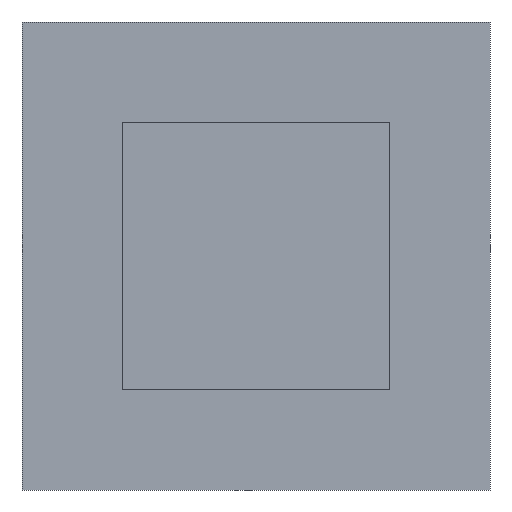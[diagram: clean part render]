
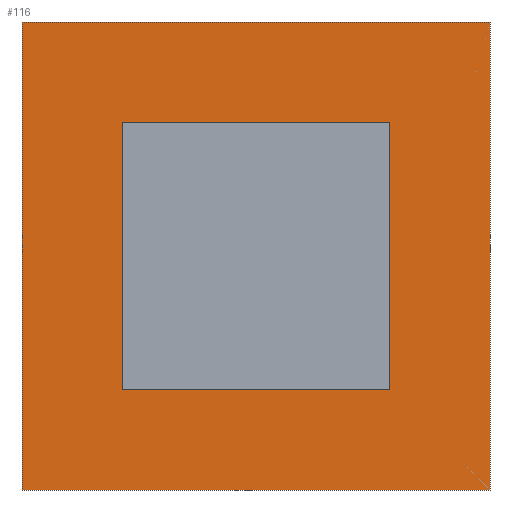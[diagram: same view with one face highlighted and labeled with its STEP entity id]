
A CAD part, front view. The second image highlights one B-rep face of the part: STEP entity #116.
In plain terms, the highlighted planar face has unit normal (0, -1, 0).
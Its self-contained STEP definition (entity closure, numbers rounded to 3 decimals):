
#114 = VERTEX_POINT( '', #310 );
#116 = ADVANCED_FACE( '', ( #312, #313 ), #314, .F. );
#126 = EDGE_CURVE( '', #114, #168, #327, .T. );
#134 = VERTEX_POINT( '', #336 );
#144 = VERTEX_POINT( '', #347 );
#150 = EDGE_CURVE( '', #144, #114, #353, .T. );
#168 = VERTEX_POINT( '', #373 );
#176 = VERTEX_POINT( '', #381 );
#182 = EDGE_CURVE( '', #168, #254, #387, .T. );
#190 = EDGE_CURVE( '', #176, #206, #396, .T. );
#192 = EDGE_CURVE( '', #254, #144, #398, .T. );
#206 = VERTEX_POINT( '', #413 );
#210 = VERTEX_POINT( '', #417 );
#248 = EDGE_CURVE( '', #134, #176, #461, .T. );
#254 = VERTEX_POINT( '', #468 );
#264 = EDGE_CURVE( '', #210, #134, #479, .T. );
#274 = EDGE_CURVE( '', #206, #210, #489, .T. );
#310 = CARTESIAN_POINT( '', ( -17., -20., -17. ) );
#312 = FACE_BOUND( '', #520, .T. );
#313 = FACE_OUTER_BOUND( '', #521, .T. );
#314 = PLANE( '', #522 );
#327 = LINE( '', #539, #540 );
#336 = CARTESIAN_POINT( '', ( -9.714, -20., 9.714 ) );
#347 = CARTESIAN_POINT( '', ( 17., -20., -17. ) );
#353 = LINE( '', #575, #576 );
#373 = CARTESIAN_POINT( '', ( -17., -20., 17. ) );
#381 = CARTESIAN_POINT( '', ( 9.714, -20., 9.714 ) );
#387 = LINE( '', #620, #621 );
#396 = LINE( '', #633, #634 );
#398 = LINE( '', #637, #638 );
#413 = CARTESIAN_POINT( '', ( 9.714, -20., -9.714 ) );
#417 = CARTESIAN_POINT( '', ( -9.714, -20., -9.714 ) );
#461 = LINE( '', #724, #725 );
#468 = CARTESIAN_POINT( '', ( 17., -20., 17. ) );
#479 = LINE( '', #748, #749 );
#489 = LINE( '', #766, #767 );
#520 = EDGE_LOOP( '', ( #800, #801, #802, #803 ) );
#521 = EDGE_LOOP( '', ( #804, #805, #806, #807 ) );
#522 = AXIS2_PLACEMENT_3D( '', #808, #809, #810 );
#539 = CARTESIAN_POINT( '', ( -17., -20., -17. ) );
#540 = VECTOR( '', #833, 1. );
#575 = CARTESIAN_POINT( '', ( 17., -20., -17. ) );
#576 = VECTOR( '', #854, 1. );
#620 = CARTESIAN_POINT( '', ( -17., -20., 17. ) );
#621 = VECTOR( '', #877, 1. );
#633 = CARTESIAN_POINT( '', ( 9.714, -20., 4.857 ) );
#634 = VECTOR( '', #887, 1. );
#637 = CARTESIAN_POINT( '', ( 17., -20., 17. ) );
#638 = VECTOR( '', #888, 1. );
#724 = CARTESIAN_POINT( '', ( -4.857, -20., 9.714 ) );
#725 = VECTOR( '', #955, 1. );
#748 = CARTESIAN_POINT( '', ( -9.714, -20., -4.857 ) );
#749 = VECTOR( '', #974, 1. );
#766 = CARTESIAN_POINT( '', ( 4.857, -20., -9.714 ) );
#767 = VECTOR( '', #978, 1. );
#800 = ORIENTED_EDGE( '', *, *, #248, .T. );
#801 = ORIENTED_EDGE( '', *, *, #190, .T. );
#802 = ORIENTED_EDGE( '', *, *, #274, .T. );
#803 = ORIENTED_EDGE( '', *, *, #264, .T. );
#804 = ORIENTED_EDGE( '', *, *, #126, .F. );
#805 = ORIENTED_EDGE( '', *, *, #150, .F. );
#806 = ORIENTED_EDGE( '', *, *, #192, .F. );
#807 = ORIENTED_EDGE( '', *, *, #182, .F. );
#808 = CARTESIAN_POINT( '', ( 0., -20., 0. ) );
#809 = DIRECTION( '', ( 0., 1., 0. ) );
#810 = DIRECTION( '', ( 0., 0., 1. ) );
#833 = DIRECTION( '', ( 0., 0., 1. ) );
#854 = DIRECTION( '', ( -1., 0., 0. ) );
#877 = DIRECTION( '', ( 1., 0., 0. ) );
#887 = DIRECTION( '', ( 0., 0., -1. ) );
#888 = DIRECTION( '', ( 0., 0., -1. ) );
#955 = DIRECTION( '', ( 1., 0., 0. ) );
#974 = DIRECTION( '', ( 0., 0., 1. ) );
#978 = DIRECTION( '', ( -1., 0., 0. ) );
